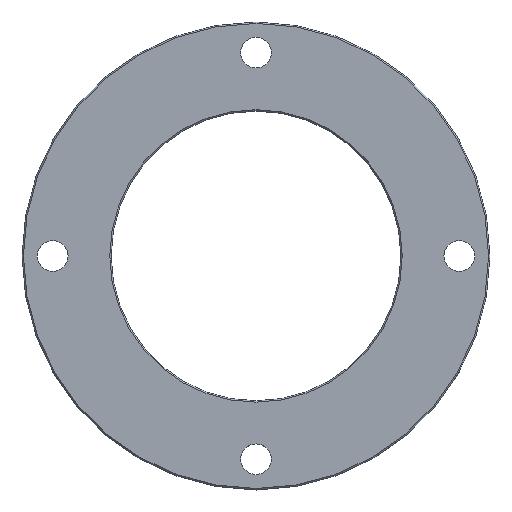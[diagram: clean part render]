
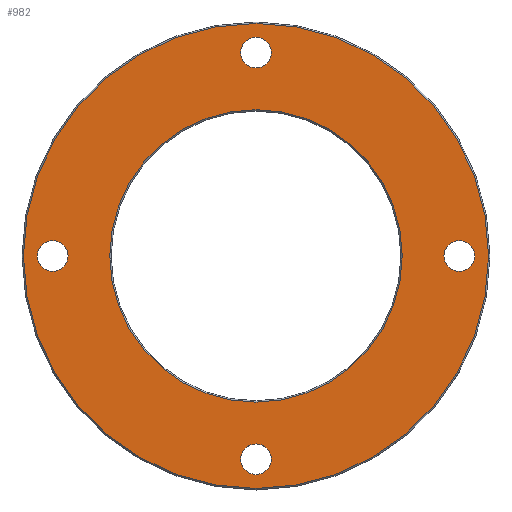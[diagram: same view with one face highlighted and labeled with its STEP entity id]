
A CAD part, top view. The second image highlights one B-rep face of the part: STEP entity #982.
In plain terms, the highlighted planar face has unit normal (0, 0, 1).
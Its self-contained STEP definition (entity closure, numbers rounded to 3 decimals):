
#93=VERTEX_POINT(' ',#94);
#94=CARTESIAN_POINT('',(0.,78.5,0.));
#95=VERTEX_POINT(' ',#96);
#96=CARTESIAN_POINT('',(0.,67.5,0.));
#101=VERTEX_POINT(' ',#102);
#102=CARTESIAN_POINT('',(0.,-67.5,0.));
#103=VERTEX_POINT(' ',#104);
#104=CARTESIAN_POINT('',(0.,-78.5,0.));
#157=VERTEX_POINT(' ',#158);
#158=CARTESIAN_POINT('',(73.,-5.5,0.));
#159=VERTEX_POINT(' ',#160);
#160=CARTESIAN_POINT('',(73.,5.5,0.));
#161=VERTEX_POINT(' ',#162);
#162=CARTESIAN_POINT('',(-73.,-5.5,0.));
#163=VERTEX_POINT(' ',#164);
#164=CARTESIAN_POINT('',(-73.,5.5,0.));
#169=VERTEX_POINT(' ',#170);
#170=CARTESIAN_POINT('',(0.,-52.5,0.));
#171=VERTEX_POINT(' ',#172);
#172=CARTESIAN_POINT('',(0.,52.5,0.));
#173=VERTEX_POINT(' ',#174);
#174=CARTESIAN_POINT('',(0.,-83.5,0.));
#175=VERTEX_POINT(' ',#176);
#176=CARTESIAN_POINT('',(0.,83.5,0.));
#200=CIRCLE('',#201,5.5);
#201=AXIS2_PLACEMENT_3D('',#202,#203,#204);
#202=CARTESIAN_POINT('',(0.,73.,0.));
#203=DIRECTION('',(0.,0.,1.));
#204=DIRECTION('',(1.,0.,0.));
#205=EDGE_CURVE(' ',#93,#95,#200,.T.);
#217=CIRCLE('',#218,5.5);
#218=AXIS2_PLACEMENT_3D('',#219,#220,#221);
#219=CARTESIAN_POINT('',(0.,73.,0.));
#220=DIRECTION('',(0.,0.,1.));
#221=DIRECTION('',(-1.,0.,0.));
#222=EDGE_CURVE(' ',#95,#93,#217,.T.);
#234=CIRCLE('',#235,5.5);
#235=AXIS2_PLACEMENT_3D('',#236,#237,#238);
#236=CARTESIAN_POINT('',(0.,-73.,0.));
#237=DIRECTION('',(0.,0.,1.));
#238=DIRECTION('',(1.,0.,0.));
#239=EDGE_CURVE(' ',#101,#103,#234,.T.);
#251=CIRCLE('',#252,5.5);
#252=AXIS2_PLACEMENT_3D('',#253,#254,#255);
#253=CARTESIAN_POINT('',(0.,-73.,0.));
#254=DIRECTION('',(0.,0.,1.));
#255=DIRECTION('',(-1.,0.,0.));
#256=EDGE_CURVE(' ',#103,#101,#251,.T.);
#468=CIRCLE('',#469,5.5);
#469=AXIS2_PLACEMENT_3D('',#470,#471,#472);
#470=CARTESIAN_POINT('',(73.,0.,0.));
#471=DIRECTION('',(0.,0.,-1.));
#472=DIRECTION('',(-1.,0.,0.));
#473=EDGE_CURVE(' ',#157,#159,#468,.F.);
#479=CIRCLE('',#480,5.5);
#480=AXIS2_PLACEMENT_3D('',#481,#482,#483);
#481=CARTESIAN_POINT('',(73.,0.,0.));
#482=DIRECTION('',(0.,0.,-1.));
#483=DIRECTION('',(1.,0.,0.));
#484=EDGE_CURVE(' ',#159,#157,#479,.F.);
#490=CIRCLE('',#491,5.5);
#491=AXIS2_PLACEMENT_3D('',#492,#493,#494);
#492=CARTESIAN_POINT('',(-73.,0.,0.));
#493=DIRECTION('',(0.,0.,-1.));
#494=DIRECTION('',(-1.,0.,0.));
#495=EDGE_CURVE(' ',#161,#163,#490,.F.);
#501=CIRCLE('',#502,5.5);
#502=AXIS2_PLACEMENT_3D('',#503,#504,#505);
#503=CARTESIAN_POINT('',(-73.,0.,0.));
#504=DIRECTION('',(0.,0.,-1.));
#505=DIRECTION('',(1.,0.,0.));
#506=EDGE_CURVE(' ',#163,#161,#501,.F.);
#539=CIRCLE('',#540,52.5);
#540=AXIS2_PLACEMENT_3D('',#541,#542,#543);
#541=CARTESIAN_POINT('',(0.,0.,0.));
#542=DIRECTION('',(0.,0.,1.));
#543=DIRECTION('',(1.,0.,0.));
#544=EDGE_CURVE(' ',#171,#169,#539,.T.);
#545=CIRCLE('',#546,52.5);
#546=AXIS2_PLACEMENT_3D('',#547,#548,#549);
#547=CARTESIAN_POINT('',(0.,0.,0.));
#548=DIRECTION('',(0.,0.,1.));
#549=DIRECTION('',(-1.,0.,0.));
#550=EDGE_CURVE(' ',#169,#171,#545,.T.);
#551=CIRCLE('',#552,83.5);
#552=AXIS2_PLACEMENT_3D('',#553,#554,#555);
#553=CARTESIAN_POINT('',(0.,0.,0.));
#554=DIRECTION('',(0.,0.,-1.));
#555=DIRECTION('',(-1.,0.,0.));
#556=EDGE_CURVE(' ',#175,#173,#551,.T.);
#557=CIRCLE('',#558,83.5);
#558=AXIS2_PLACEMENT_3D('',#559,#560,#561);
#559=CARTESIAN_POINT('',(0.,0.,0.));
#560=DIRECTION('',(0.,0.,-1.));
#561=DIRECTION('',(1.,0.,0.));
#562=EDGE_CURVE(' ',#173,#175,#557,.T.);
#953=ORIENTED_EDGE('',*,*,#556,.F.);
#954=ORIENTED_EDGE('',*,*,#562,.F.);
#955=EDGE_LOOP('',(#953,#954));
#956=FACE_OUTER_BOUND('',#955,.T.);
#957=ORIENTED_EDGE('',*,*,#550,.F.);
#958=ORIENTED_EDGE('',*,*,#544,.F.);
#959=EDGE_LOOP('',(#957,#958));
#960=FACE_BOUND('',#959,.T.);
#961=ORIENTED_EDGE('',*,*,#506,.F.);
#962=ORIENTED_EDGE('',*,*,#495,.F.);
#963=EDGE_LOOP('',(#961,#962));
#964=FACE_BOUND('',#963,.T.);
#965=ORIENTED_EDGE('',*,*,#484,.F.);
#966=ORIENTED_EDGE('',*,*,#473,.F.);
#967=EDGE_LOOP('',(#965,#966));
#968=FACE_BOUND('',#967,.T.);
#969=ORIENTED_EDGE('',*,*,#205,.F.);
#970=ORIENTED_EDGE('',*,*,#222,.F.);
#971=EDGE_LOOP('',(#969,#970));
#972=FACE_BOUND('',#971,.T.);
#973=ORIENTED_EDGE('',*,*,#239,.F.);
#974=ORIENTED_EDGE('',*,*,#256,.F.);
#975=EDGE_LOOP('',(#973,#974));
#976=FACE_BOUND('',#975,.T.);
#977=PLANE('',#978);
#978=AXIS2_PLACEMENT_3D('',#979,#980,#981);
#979=CARTESIAN_POINT('',(84.,0.,0.));
#980=DIRECTION('',(0.,0.,1.));
#981=DIRECTION('',(0.,1.,0.));
#982=ADVANCED_FACE('',(#956,#960,#964,#968,#972,#976),#977,.T.);
